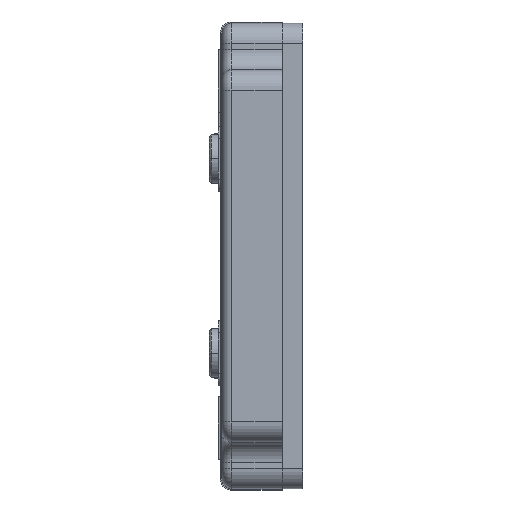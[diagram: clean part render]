
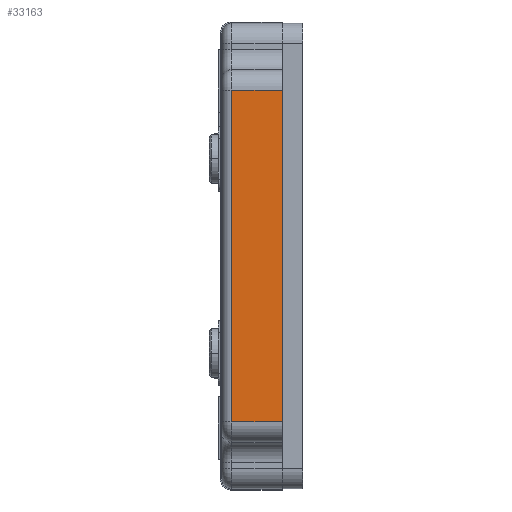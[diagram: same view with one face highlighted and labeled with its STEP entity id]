
A CAD part, left-side view. The second image highlights one B-rep face of the part: STEP entity #33163.
In plain terms, the highlighted planar face has unit normal (-1, 0, 0) as drawn and (1, 0, 0) by its records, which use the part's own axes.
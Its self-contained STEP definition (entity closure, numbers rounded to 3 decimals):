
#3037 = LINE ( 'NONE', #107286, #26387 ) ;
#9459 = PLANE ( 'NONE',  #21420 ) ;
#14289 = EDGE_CURVE ( 'NONE', #40153, #70834, #105699, .T. ) ;
#18258 = DIRECTION ( 'NONE',  ( -1., 0., 0. ) ) ;
#18499 = EDGE_LOOP ( 'NONE', ( #51320, #102679, #74220, #74781 ) ) ;
#19848 = CARTESIAN_POINT ( 'NONE',  ( 72.5, 15., -41. ) ) ;
#21420 = AXIS2_PLACEMENT_3D ( 'NONE', #88687, #18258, #97119 ) ;
#22089 = VECTOR ( 'NONE', #91210, 1000. ) ;
#26387 = VECTOR ( 'NONE', #63777, 1000. ) ;
#33163 = ADVANCED_FACE ( 'NONE', ( #104731 ), #9459, .F. ) ;
#40153 = VERTEX_POINT ( 'NONE', #19848 ) ;
#49015 = DIRECTION ( 'NONE',  ( 0., 0., -1. ) ) ;
#51320 = ORIENTED_EDGE ( 'NONE', *, *, #110096, .T. ) ;
#63077 = VECTOR ( 'NONE', #49015, 1000. ) ;
#63777 = DIRECTION ( 'NONE',  ( 0., 0., -1. ) ) ;
#64478 = CARTESIAN_POINT ( 'NONE',  ( 72.5, 2.5, -41. ) ) ;
#70834 = VERTEX_POINT ( 'NONE', #64478 ) ;
#71367 = EDGE_CURVE ( 'NONE', #78633, #70834, #78092, .T. ) ;
#72687 = DIRECTION ( 'NONE',  ( 0., -1., 0. ) ) ;
#73253 = CARTESIAN_POINT ( 'NONE',  ( 72.5, 15., -41. ) ) ;
#74220 = ORIENTED_EDGE ( 'NONE', *, *, #14289, .F. ) ;
#74781 = ORIENTED_EDGE ( 'NONE', *, *, #110642, .F. ) ;
#78092 = LINE ( 'NONE', #84559, #63077 ) ;
#78633 = VERTEX_POINT ( 'NONE', #88926 ) ;
#84559 = CARTESIAN_POINT ( 'NONE',  ( 72.5, 2.5, -41. ) ) ;
#88687 = CARTESIAN_POINT ( 'NONE',  ( 72.5, 15., -41. ) ) ;
#88926 = CARTESIAN_POINT ( 'NONE',  ( 72.5, 2.5, 41. ) ) ;
#90983 = CARTESIAN_POINT ( 'NONE',  ( 72.5, 15., 41. ) ) ;
#91210 = DIRECTION ( 'NONE',  ( 0., -1., 0. ) ) ;
#93850 = VERTEX_POINT ( 'NONE', #107077 ) ;
#97119 = DIRECTION ( 'NONE',  ( 0., 0., 1. ) ) ;
#99965 = LINE ( 'NONE', #90983, #113455 ) ;
#102679 = ORIENTED_EDGE ( 'NONE', *, *, #71367, .T. ) ;
#104731 = FACE_OUTER_BOUND ( 'NONE', #18499, .T. ) ;
#105699 = LINE ( 'NONE', #73253, #22089 ) ;
#107077 = CARTESIAN_POINT ( 'NONE',  ( 72.5, 15., 41. ) ) ;
#107286 = CARTESIAN_POINT ( 'NONE',  ( 72.5, 15., -41. ) ) ;
#110096 = EDGE_CURVE ( 'NONE', #93850, #78633, #99965, .T. ) ;
#110642 = EDGE_CURVE ( 'NONE', #93850, #40153, #3037, .T. ) ;
#113455 = VECTOR ( 'NONE', #72687, 1000. ) ;
